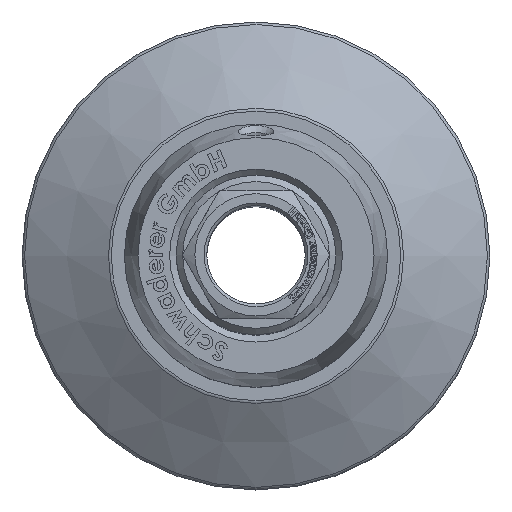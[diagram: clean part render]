
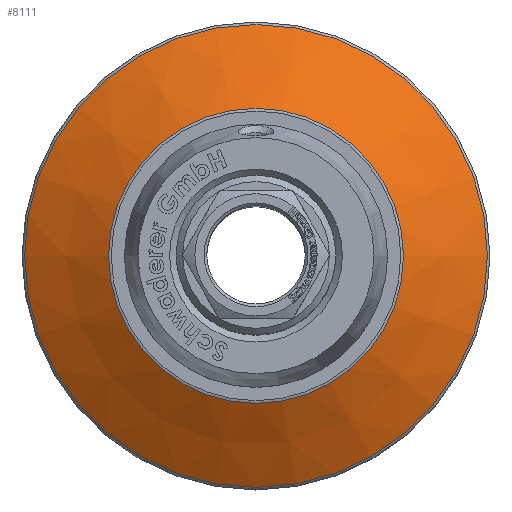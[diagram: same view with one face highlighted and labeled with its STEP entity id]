
A CAD part, top view. The second image highlights one B-rep face of the part: STEP entity #8111.
In plain terms, the highlighted conical face has half-angle 58.782 degrees and reference radius 35.75 mm.
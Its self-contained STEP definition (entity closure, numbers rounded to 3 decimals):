
#2411=CONICAL_SURFACE('',#8597,35.75,58.782);
#2429=FACE_BOUND('',#2995,.T.);
#2514=FACE_OUTER_BOUND('',#2994,.T.);
#2994=EDGE_LOOP('',(#5669));
#2995=EDGE_LOOP('',(#5670));
#3556=CIRCLE('',#8595,27.739);
#3558=CIRCLE('',#8598,43.518);
#3623=VERTEX_POINT('',#10422);
#3625=VERTEX_POINT('',#10427);
#4447=EDGE_CURVE('',#3623,#3623,#3556,.T.);
#4449=EDGE_CURVE('',#3625,#3625,#3558,.T.);
#5669=ORIENTED_EDGE('',*,*,#4449,.F.);
#5670=ORIENTED_EDGE('',*,*,#4447,.F.);
#8111=ADVANCED_FACE('',(#2514,#2429),#2411,.T.);
#8595=AXIS2_PLACEMENT_3D('',#10423,#8956,#8957);
#8597=AXIS2_PLACEMENT_3D('',#10426,#8960,#8961);
#8598=AXIS2_PLACEMENT_3D('',#10428,#8962,#8963);
#8956=DIRECTION('center_axis',(0.,0.,
1.));
#8957=DIRECTION('ref_axis',(-1.,0.,0.));
#8960=DIRECTION('center_axis',(0.,0.,-1.));
#8961=DIRECTION('ref_axis',(1.,0.,0.));
#8962=DIRECTION('center_axis',(0.,0.,
-1.));
#8963=DIRECTION('ref_axis',(-1.,0.,0.));
#10422=CARTESIAN_POINT('',(27.739,0.,-24.012));
#10423=CARTESIAN_POINT('Origin',(0.,0.,
-24.012));
#10426=CARTESIAN_POINT('Origin',(0.,0.,-28.867));
#10427=CARTESIAN_POINT('',(43.518,0.,-33.575));
#10428=CARTESIAN_POINT('Origin',(0.,0.,
-33.575));
